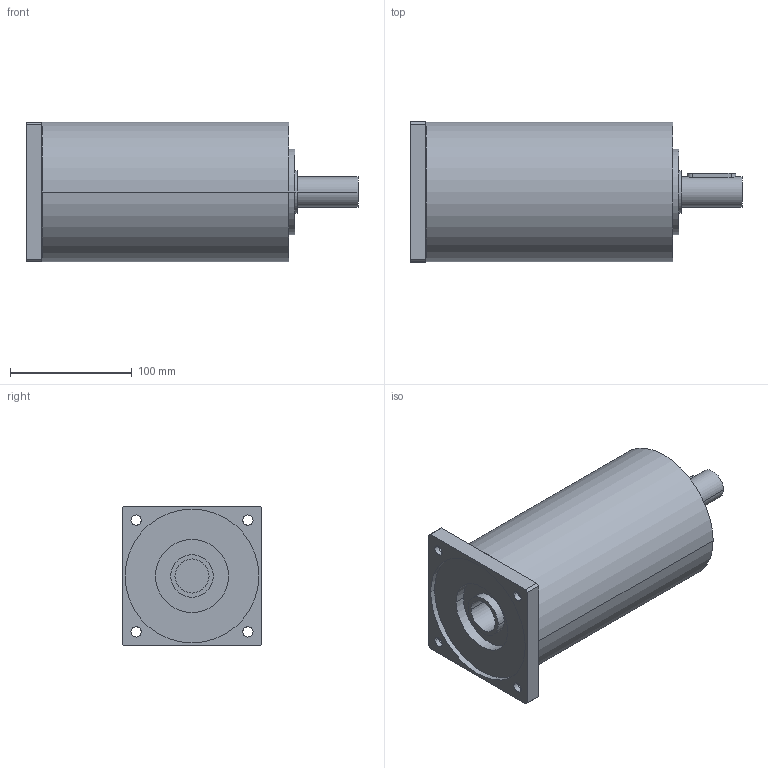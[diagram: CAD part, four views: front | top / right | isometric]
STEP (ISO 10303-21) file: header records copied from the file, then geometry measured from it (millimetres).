
FILE_DESCRIPTION(('CoCreate Modeling STEP Export'),'2;1');
FILE_NAME('GPR125_ig-48-64-80-100-140-196-245-343_25_B14_28_P07.stp','2014-08-26T14:22:48',(''),(''),'CoCreate Modeling STEP processor for AP214 (Solid Model)','CoCreate Modeling 16.00C 25-Feb-2009 (C) Parametric Technology GmbH','');
FILE_SCHEMA(('AUTOMOTIVE_DESIGN { 1 0 10303 214 1 1 1 1 }'));
Length unit declared in the file: millimetre
Products named in the file (2): GPR125_ig-48-64-80-100-140-196-245-343_25_B14_28_P07
Assembly tree (1 placements, depth 2):
  GPR125_ig-48-64-80-100-140-196-245-343_25_B14_28_P07
    GPR125_ig-48-64-80-100-140-196-245-343_25_B14_28_P07
Bounding box: 273 x 115 x 115 mm (x, y, z)
Volume: 2221441.5 mm3; surface area: 124377.5 mm2
Topology: 1 solids, 1 shells, 77 faces, 212 edges, 152 vertices
Faces by surface type: cylinder 48, plane 25, cone 4
Entity records: 2153 total; most frequent: ORIENTED_EDGE 420, CARTESIAN_POINT 399, DIRECTION 288, EDGE_CURVE 210, VERTEX_POINT 152, AXIS2_PLACEMENT_3D 109, EDGE_LOOP 102, FACE_OUTER_BOUND 77
